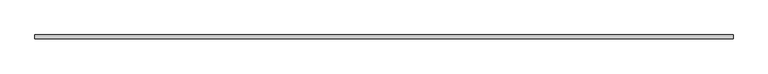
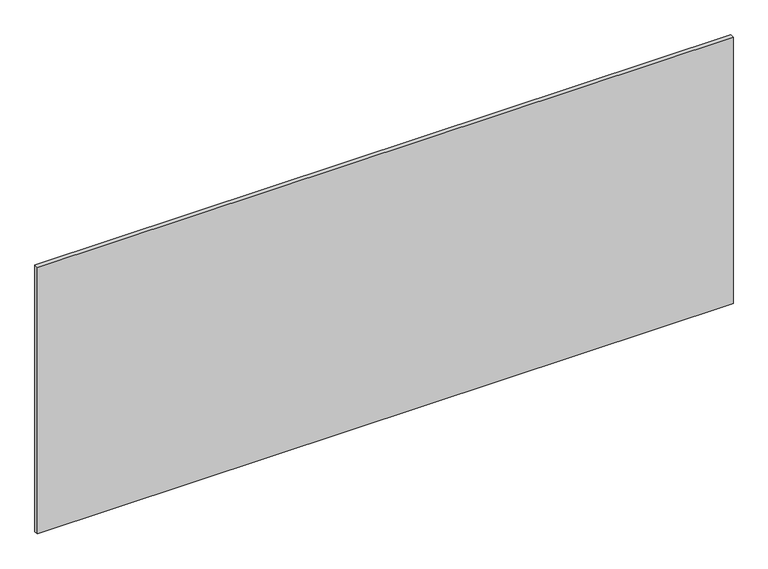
"""IFC4 building model written with IfcOpenShell, lengths in millimetres: plate geometry, 系統嵌板 : 玻璃 1.0cm."""

import ifcopenshell
import ifcopenshell.guid

model = None  # the IFC model being written
_history = None  # IfcOwnerHistory: only IFC2X3 demands one
_inside = {}  # id of a spatial element -> (the spatial element, [elements in it])
_under = {}  # id of a project, library or spatial element -> (it, [spatial elements below it])
_declared = {}  # id of a project -> (the project, [libraries it declares])
_typed = {}  # id of a type object -> (the type object, [elements of that type])
_made_of = {}  # id of a material, layer set ... -> (it, [elements and type objects made of it])


def new_model(schema):
    """Start an empty IFC model of exactly this schema.

    Asked for "IFC4X3", IfcOpenShell would pick the latest addendum, in which some entities
    have other attributes; the version numbers below select the first issue.
    IFC2X3 requires an IfcOwnerHistory on every rooted entity: one is made here for all.
    """
    global model, _history
    if schema == "IFC4X3":
        model = ifcopenshell.file(schema_version=(4, 3, 0, 0))
    else:
        model = ifcopenshell.file(schema=schema)
    _inside.clear()
    _under.clear()
    _declared.clear()
    _typed.clear()
    _made_of.clear()
    _history = None
    if model.schema == "IFC2X3":
        org = make("IfcOrganization", Name="unknown")
        user = make(
            "IfcPersonAndOrganization",
            ThePerson=make("IfcPerson", FamilyName="unknown"),
            TheOrganization=org,
        )
        app = make(
            "IfcApplication",
            ApplicationDeveloper=org,
            Version="unknown",
            ApplicationFullName="unknown",
            ApplicationIdentifier="unknown",
        )
        _history = make(
            "IfcOwnerHistory",
            OwningUser=user,
            OwningApplication=app,
            ChangeAction="ADDED",
            CreationDate=0,
        )
    return model


def make(cls, **values):
    """One entity of the class cls with the attributes given. An attribute that is None is left unset."""
    return model.create_entity(
        cls, **{name: value for name, value in values.items() if value is not None}
    )


def rooted(cls, **values):
    """An entity with a GlobalId (a new one), such as an element, a storey or a relation."""
    return make(cls, GlobalId=ifcopenshell.guid.new(), OwnerHistory=_history, **values)


def si_unit(unit_type, name, prefix=None):
    """IfcSIUnit, for example si_unit("LENGTHUNIT", "METRE", prefix="MILLI")."""
    return make("IfcSIUnit", UnitType=unit_type, Prefix=prefix, Name=name)


def assignment(units):
    """IfcUnitAssignment: the units of a project."""
    return None if units is None else make("IfcUnitAssignment", Units=units)


def point(xyz):
    """IfcCartesianPoint."""
    return None if xyz is None else make("IfcCartesianPoint", Coordinates=xyz)


def direction(xyz):
    """IfcDirection."""
    return None if xyz is None else make("IfcDirection", DirectionRatios=xyz)


def frame(location, z_axis=None, x_axis=None):
    """IfcAxis2Placement3D, a coordinate frame: its origin and axes. An axis left out is left unset."""
    return make(
        "IfcAxis2Placement3D",
        Location=point(location),
        Axis=direction(z_axis),
        RefDirection=direction(x_axis),
    )


def origin():
    """The frame at (0, 0, 0) with its axes left unset."""
    return frame((0.0, 0.0, 0.0))


def origin_with_axes():
    """The frame at (0, 0, 0) with the z axis (0, 0, 1) and the x axis (1, 0, 0) written out."""
    return frame((0.0, 0.0, 0.0), z_axis=(0.0, 0.0, 1.0), x_axis=(1.0, 0.0, 0.0))


def place(relative_to, where):
    """IfcLocalPlacement: puts the frame where relative to a parent placement (None: the world)."""
    return make(
        "IfcLocalPlacement", PlacementRelTo=relative_to, RelativePlacement=where
    )


def context(
    kind, dimensions, precision=None, world=None, true_north=None, identifier=None
):
    """IfcGeometricRepresentationContext, for example the 3D "Model" context."""
    return make(
        "IfcGeometricRepresentationContext",
        ContextIdentifier=identifier,
        ContextType=kind,
        CoordinateSpaceDimension=dimensions,
        Precision=precision,
        WorldCoordinateSystem=world,
        TrueNorth=true_north,
    )


def project(units=None, contexts=None):
    """IfcProject with its units and contexts."""
    return rooted(
        "IfcProject",
        Name="project",
        RepresentationContexts=contexts,
        UnitsInContext=assignment(units),
    )


def spatial(cls, under=None, at=None, **own):
    """A site, building, storey or space (cls), placed at a placement, below another one or the project."""
    s = rooted(cls, ObjectPlacement=at, **own)
    if under is not None:
        _under.setdefault(under.id(), (under, []))[1].append(s)
    return s


def polyline(points):
    """IfcPolyline through the points."""
    return make("IfcPolyline", Points=[point(p) for p in points])


def outline(outer, holes=None, kind="AREA"):
    """IfcArbitraryClosedProfileDef: a profile drawn as a closed curve; with holes, ...WithVoids."""
    if holes is None:
        return make("IfcArbitraryClosedProfileDef", ProfileType=kind, OuterCurve=outer)
    return make(
        "IfcArbitraryProfileDefWithVoids",
        ProfileType=kind,
        OuterCurve=outer,
        InnerCurves=holes,
    )


def extrude(swept, where, along, depth):
    """IfcExtrudedAreaSolid: the profile swept, set in the frame where, extruded along a direction by depth."""
    return make(
        "IfcExtrudedAreaSolid",
        SweptArea=swept,
        Position=where,
        ExtrudedDirection=direction(along),
        Depth=depth,
    )


def shape(context_of_items, identifier, shape_type, items):
    """IfcShapeRepresentation: the items that make up one representation, for example the "Body"."""
    return make(
        "IfcShapeRepresentation",
        ContextOfItems=context_of_items,
        RepresentationIdentifier=identifier,
        RepresentationType=shape_type,
        Items=items,
    )


def source(mapping_origin, context_of_items, identifier, shape_type, items):
    """IfcRepresentationMap: a shape defined once, which mapped items show again and again."""
    return make(
        "IfcRepresentationMap",
        MappingOrigin=mapping_origin,
        MappedRepresentation=shape(context_of_items, identifier, shape_type, items),
    )


def transform(
    local_origin,
    x_axis=None,
    y_axis=None,
    z_axis=None,
    scale=None,
    scale2=None,
    scale3=None,
    uniform=True,
):
    """IfcCartesianTransformationOperator3D, or its non-uniform kind. x_axis, y_axis, z_axis: its Axis1, 2, 3."""
    if uniform:
        return make(
            "IfcCartesianTransformationOperator3D",
            Axis1=direction(x_axis),
            Axis2=direction(y_axis),
            LocalOrigin=point(local_origin),
            Scale=scale,
            Axis3=direction(z_axis),
        )
    return make(
        "IfcCartesianTransformationOperator3DnonUniform",
        Axis1=direction(x_axis),
        Axis2=direction(y_axis),
        LocalOrigin=point(local_origin),
        Scale=scale,
        Axis3=direction(z_axis),
        Scale2=scale2,
        Scale3=scale3,
    )


def mapped(mapping_source, mapping_target):
    """IfcMappedItem: shows the shape of a source again, moved by a transform."""
    return make(
        "IfcMappedItem", MappingSource=mapping_source, MappingTarget=mapping_target
    )


def made_of(thing, what):
    """Note that an element or type object is made of a material, layer set ...; save() writes the relation."""
    if what is not None:
        _made_of.setdefault(what.id(), (what, []))[1].append(thing)
    return thing


def element(
    cls,
    number,
    at=None,
    inside=None,
    cuts=None,
    type_object=None,
    material=None,
    context=None,
    identifier="Body",
    shape_type=None,
    held_by="IfcProductDefinitionShape",
    body=None,
    shapes=None,
    **own,
):
    """One element of the class cls, such as IfcWall. Its Tag is "e" and its number.

    at: its placement. inside: the storey or other place that contains it. cuts: it is an
    opening in that element (IfcRelVoidsElement). A single representation is given by context,
    identifier, shape_type and body (its items); several are given by shapes. held_by: the class
    of the entity that holds the representations. save() writes the other relations.
    """
    e = rooted(cls, Tag="e%d" % number, ObjectPlacement=at, **own)
    if body is not None:
        shapes = [shape(context, identifier, shape_type, body)]
    if shapes is not None:
        e.Representation = make(held_by, Representations=shapes)
    if inside is not None:
        _inside.setdefault(inside.id(), (inside, []))[1].append(e)
    if cuts is not None:
        rooted(
            "IfcRelVoidsElement", RelatingBuildingElement=cuts, RelatedOpeningElement=e
        )
    if type_object is not None:
        _typed.setdefault(type_object.id(), (type_object, []))[1].append(e)
    return made_of(e, material)


def aggregate(whole, parts):
    """IfcRelAggregates: a whole, such as a stair, and the parts it consists of."""
    return rooted("IfcRelAggregates", RelatingObject=whole, RelatedObjects=parts)


def save(model, path):
    """Write the relations noted so far, then the file.

    IfcRelAggregates (storeys below a building ...), IfcRelContainedInSpatialStructure (elements
    in a storey), IfcRelDefinesByType, IfcRelAssociatesMaterial and IfcRelDeclares: one each for
    every whole, place, type object, material and project.
    """
    for whole, parts in _under.values():
        aggregate(whole, parts)
    for where, things in _inside.values():
        rooted(
            "IfcRelContainedInSpatialStructure",
            RelatedElements=things,
            RelatingStructure=where,
        )
    for kind, things in _typed.values():
        rooted("IfcRelDefinesByType", RelatedObjects=things, RelatingType=kind)
    for what, things in _made_of.values():
        rooted("IfcRelAssociatesMaterial", RelatedObjects=things, RelatingMaterial=what)
    for by, libraries in _declared.values():
        rooted("IfcRelDeclares", RelatingContext=by, RelatedDefinitions=libraries)
    model.write(path)


def plate_84913797(model_context):
    return source(origin(), model_context, "Body", "SweptSolid", [
        extrude(outline(polyline([(887.5, -5.0), (-887.5, -5.0), (-887.5, 5.0), (887.5, 5.0), (887.5, -5.0)])), origin_with_axes(), (0.0, 0.0, 1.0), 719.0),
    ])


if __name__ == "__main__":
    model = new_model("IFC4")
    model_context = context("Model", 3, world=origin())
    ifc_project = project(units=[si_unit("LENGTHUNIT", "METRE", prefix="MILLI")], contexts=[model_context])
    site = spatial("IfcSite", under=ifc_project)
    building = spatial("IfcBuilding", under=site)
    placement = place(None, origin())
    plate_shape = plate_84913797(model_context)
    element("IfcPlate", 1, ObjectType="系統嵌板 : 玻璃 1.0cm", at=placement, inside=building, context=model_context, shape_type="MappedRepresentation", body=[
        mapped(plate_shape, transform((0.0, 0.0, 0.0), x_axis=(1.0, 0.0, 0.0), y_axis=(0.0, 1.0, 0.0), z_axis=(0.0, 0.0, 1.0))),
    ])
    save(model, "model.ifc")
